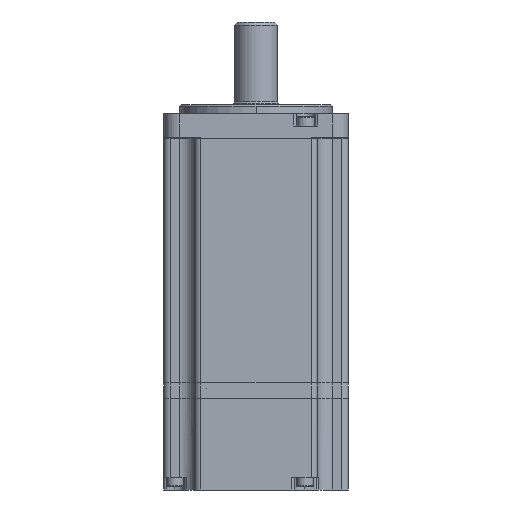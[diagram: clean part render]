
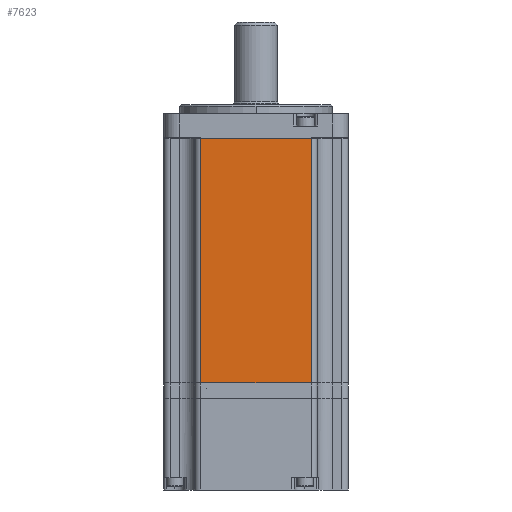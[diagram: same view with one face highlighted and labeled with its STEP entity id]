
A CAD part, front view. The second image highlights one B-rep face of the part: STEP entity #7623.
In plain terms, the highlighted planar face has unit normal (0, -1, 0).
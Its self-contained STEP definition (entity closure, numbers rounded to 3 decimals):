
#3965 = CARTESIAN_POINT ( 'NONE',  ( -20., -30.1, 80. ) ) ;
#3966 = DIRECTION ( 'NONE',  ( 1., 0., 0. ) ) ;
#4001 = DIRECTION ( 'NONE',  ( 1., 0., 0. ) ) ;
#4006 = CARTESIAN_POINT ( 'NONE',  ( -20., -30.1, 0. ) ) ;
#4059 = CARTESIAN_POINT ( 'NONE',  ( 18., -30.1, 80. ) ) ;
#4060 = DIRECTION ( 'NONE',  ( 0., 0., 1. ) ) ;
#4061 = CARTESIAN_POINT ( 'NONE',  ( -18., -30.1, 80. ) ) ;
#4062 = DIRECTION ( 'NONE',  ( 0., 0., -1. ) ) ;
#7623 = ADVANCED_FACE ( 'NONE', ( #35888 ), #38142, .F. ) ;
#12184 = CARTESIAN_POINT ( 'NONE',  ( -18., -30.1, 80. ) ) ;
#12185 = CARTESIAN_POINT ( 'NONE',  ( 18., -30.1, 80. ) ) ;
#12191 = CARTESIAN_POINT ( 'NONE',  ( -18., -30.1, 0. ) ) ;
#12194 = CARTESIAN_POINT ( 'NONE',  ( 18., -30.1, 0. ) ) ;
#22254 = ORIENTED_EDGE ( 'NONE', *, *, #22352, .T. ) ;
#22255 = ORIENTED_EDGE ( 'NONE', *, *, #22373, .T. ) ;
#22256 = ORIENTED_EDGE ( 'NONE', *, *, #22337, .F. ) ;
#22257 = ORIENTED_EDGE ( 'NONE', *, *, #22374, .T. ) ;
#22337 = EDGE_CURVE ( 'NONE', #23826, #23827, #46011, .T. ) ;
#22352 = EDGE_CURVE ( 'NONE', #23833, #23836, #46033, .T. ) ;
#22373 = EDGE_CURVE ( 'NONE', #23836, #23827, #46065, .T. ) ;
#22374 = EDGE_CURVE ( 'NONE', #23826, #23833, #46067, .T. ) ;
#23826 = VERTEX_POINT ( 'NONE', #12184 ) ;
#23827 = VERTEX_POINT ( 'NONE', #12185 ) ;
#23833 = VERTEX_POINT ( 'NONE', #12191 ) ;
#23836 = VERTEX_POINT ( 'NONE', #12194 ) ;
#29506 = EDGE_LOOP ( 'NONE', ( #22254, #22255, #22256, #22257 ) ) ;
#35079 = AXIS2_PLACEMENT_3D ( 'NONE', #38138, #38144, #38145 ) ;
#35888 = FACE_OUTER_BOUND ( 'NONE', #29506, .T. ) ;
#38138 = CARTESIAN_POINT ( 'NONE',  ( -20., -30.1, 80. ) ) ;
#38142 = PLANE ( 'NONE',  #35079 ) ;
#38144 = DIRECTION ( 'NONE',  ( 0., 1., 0. ) ) ;
#38145 = DIRECTION ( 'NONE',  ( 0., 0., 1. ) ) ;
#46011 = LINE ( 'NONE', #3965, #46015 ) ;
#46015 = VECTOR ( 'NONE', #3966, 1000. ) ;
#46033 = LINE ( 'NONE', #4006, #46035 ) ;
#46035 = VECTOR ( 'NONE', #4001, 1000. ) ;
#46065 = LINE ( 'NONE', #4059, #46068 ) ;
#46067 = LINE ( 'NONE', #4061, #46070 ) ;
#46068 = VECTOR ( 'NONE', #4060, 1000. ) ;
#46070 = VECTOR ( 'NONE', #4062, 1000. ) ;
